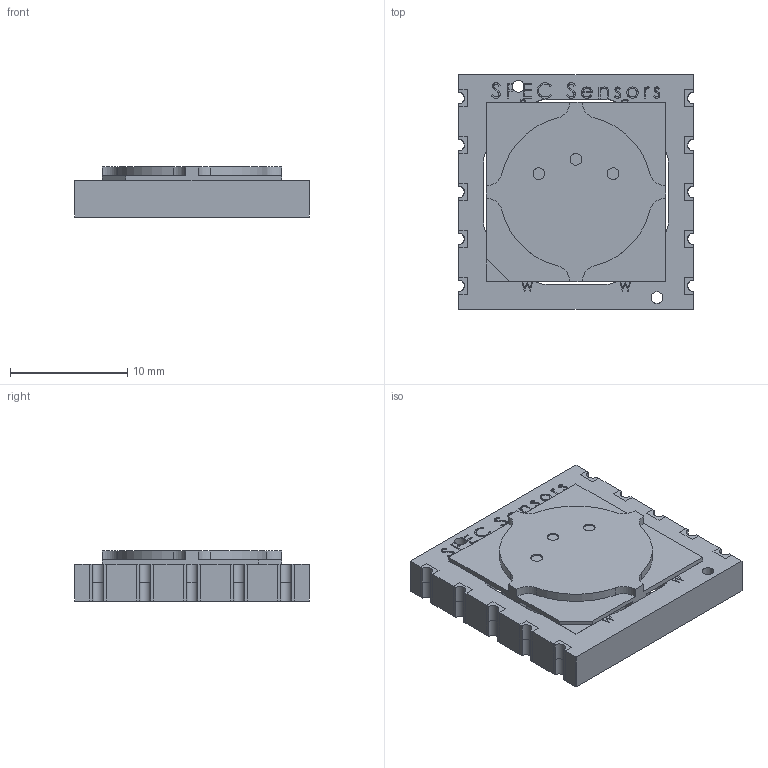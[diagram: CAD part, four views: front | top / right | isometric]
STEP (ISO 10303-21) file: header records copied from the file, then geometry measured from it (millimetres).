
FILE_DESCRIPTION (( 'STEP AP214' ), '1' );
FILE_NAME ('110-509 STEP.STEP', '2023-06-20T22:43:12', ( '' ), ( '' ), 'SwSTEP 2.0', 'SolidWorks 2017', '' );
FILE_SCHEMA (( 'AUTOMOTIVE_DESIGN' ));
Length unit declared in the file: millimetre
Products named in the file (4): 100-502 STEP; semicircle barcode label; 110-509 STEP; 981-013
Assembly tree (3 placements, depth 2):
  110-509 STEP
    100-502 STEP
    semicircle barcode label
    981-013
Bounding box: 20.01 x 20 x 4.27 mm (x, y, z)
Volume: 1182.2 mm3; surface area: 2069 mm2
Topology: 32 solids, 32 shells, 602 faces, 1606 edges, 1076 vertices
Faces by surface type: plane 368, bspline 123, cylinder 111
Full cylindrical faces by diameter (mm): 0.35 x1, 0.75 x24, 1 x13
Entity records: 28168 total; most frequent: CARTESIAN_POINT 9399, ORIENTED_EDGE 3104, DIRECTION 2498, EDGE_CURVE 1552, VECTOR 1084, LINE 1084, VERTEX_POINT 1060, EDGE_LOOP 724
